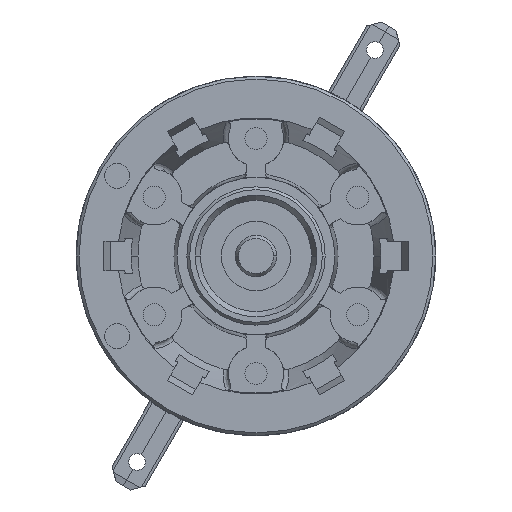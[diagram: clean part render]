
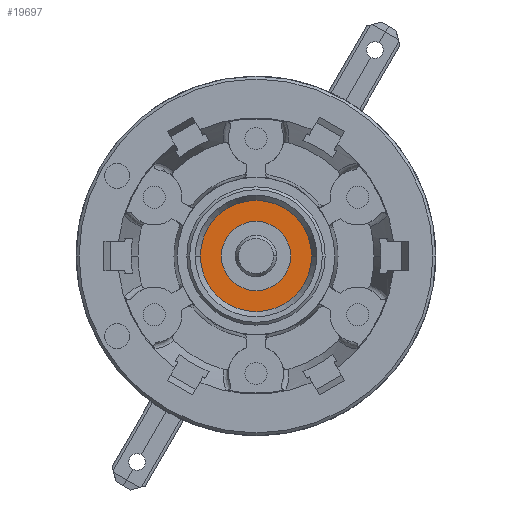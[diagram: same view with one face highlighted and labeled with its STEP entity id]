
A CAD part, left-side view. The second image highlights one B-rep face of the part: STEP entity #19697.
In plain terms, the highlighted planar face has unit normal (-1, 0, 0).
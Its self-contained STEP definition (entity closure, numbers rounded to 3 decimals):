
#9277=CARTESIAN_POINT('',(-1.89,0.,0.));
#9278=DIRECTION('',(1.,0.,0.));
#9279=DIRECTION('',(0.,1.,0.));
#9280=AXIS2_PLACEMENT_3D('',#9277,#9278,#9279);
#9285=CARTESIAN_POINT('',(-1.89,0.,0.));
#9286=DIRECTION('',(-1.,0.,0.));
#9287=DIRECTION('',(0.,1.,0.));
#9288=AXIS2_PLACEMENT_3D('',#9285,#9286,#9287);
#9307=CARTESIAN_POINT('',(-1.89,0.,0.));
#9308=DIRECTION('',(-1.,0.,0.));
#9309=DIRECTION('',(0.,1.,0.));
#9310=AXIS2_PLACEMENT_3D('',#9307,#9308,#9309);
#9315=CARTESIAN_POINT('',(-1.89,0.,0.));
#9316=DIRECTION('',(1.,0.,0.));
#9317=DIRECTION('',(0.,1.,0.));
#9318=AXIS2_PLACEMENT_3D('',#9315,#9316,#9317);
#10905=CARTESIAN_POINT('',(-1.89,2.5,0.));
#10907=VERTEX_POINT('',#10905);
#10909=CARTESIAN_POINT('',(-1.89,-2.5,0.));
#10911=VERTEX_POINT('',#10909);
#10913=CARTESIAN_POINT('',(-1.89,4.025,0.));
#10914=CARTESIAN_POINT('',(-1.89,-4.025,0.));
#10915=VERTEX_POINT('',#10913);
#10916=VERTEX_POINT('',#10914);
#19682=CARTESIAN_POINT('',(-1.89,0.,0.));
#19683=DIRECTION('',(1.,0.,0.));
#19684=DIRECTION('',(0.,-1.,0.));
#19685=AXIS2_PLACEMENT_3D('',#19682,#19683,#19684);
#19686=PLANE('',#19685);
#19687=ORIENTED_EDGE('',*,*,#19657,.T.);
#19688=ORIENTED_EDGE('',*,*,#19642,.F.);
#19689=EDGE_LOOP('',(#19687,#19688));
#19690=FACE_OUTER_BOUND('',#19689,.F.);
#19692=ORIENTED_EDGE('',*,*,#19691,.T.);
#19694=ORIENTED_EDGE('',*,*,#19693,.F.);
#19695=EDGE_LOOP('',(#19692,#19694));
#19696=FACE_BOUND('',#19695,.F.);
#19697=ADVANCED_FACE('',(#19690,#19696),#19686,.F.);
#9281=CIRCLE('',#9280,4.025);
#9289=CIRCLE('',#9288,4.025);
#9311=CIRCLE('',#9310,2.5);
#9319=CIRCLE('',#9318,2.5);
#19642=EDGE_CURVE('',#10915,#10916,#9289,.T.);
#19657=EDGE_CURVE('',#10915,#10916,#9281,.T.);
#19691=EDGE_CURVE('',#10907,#10911,#9311,.T.);
#19693=EDGE_CURVE('',#10907,#10911,#9319,.T.);
